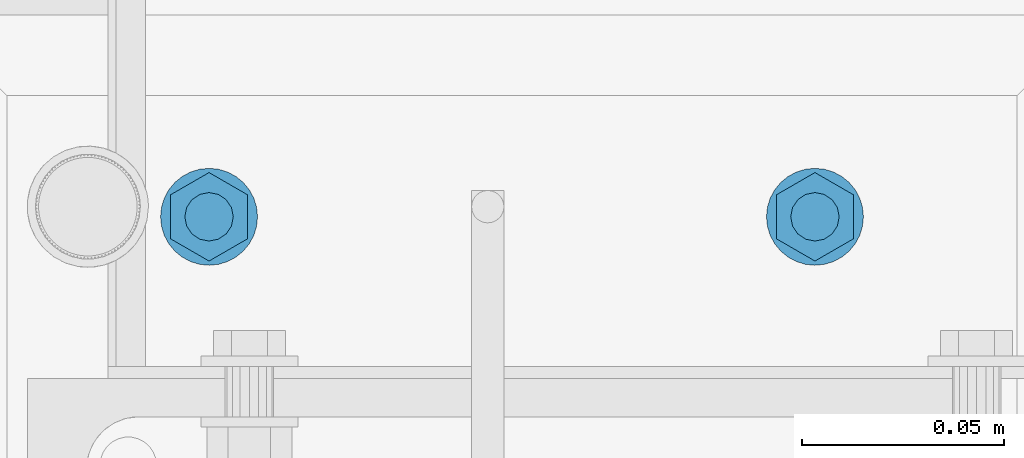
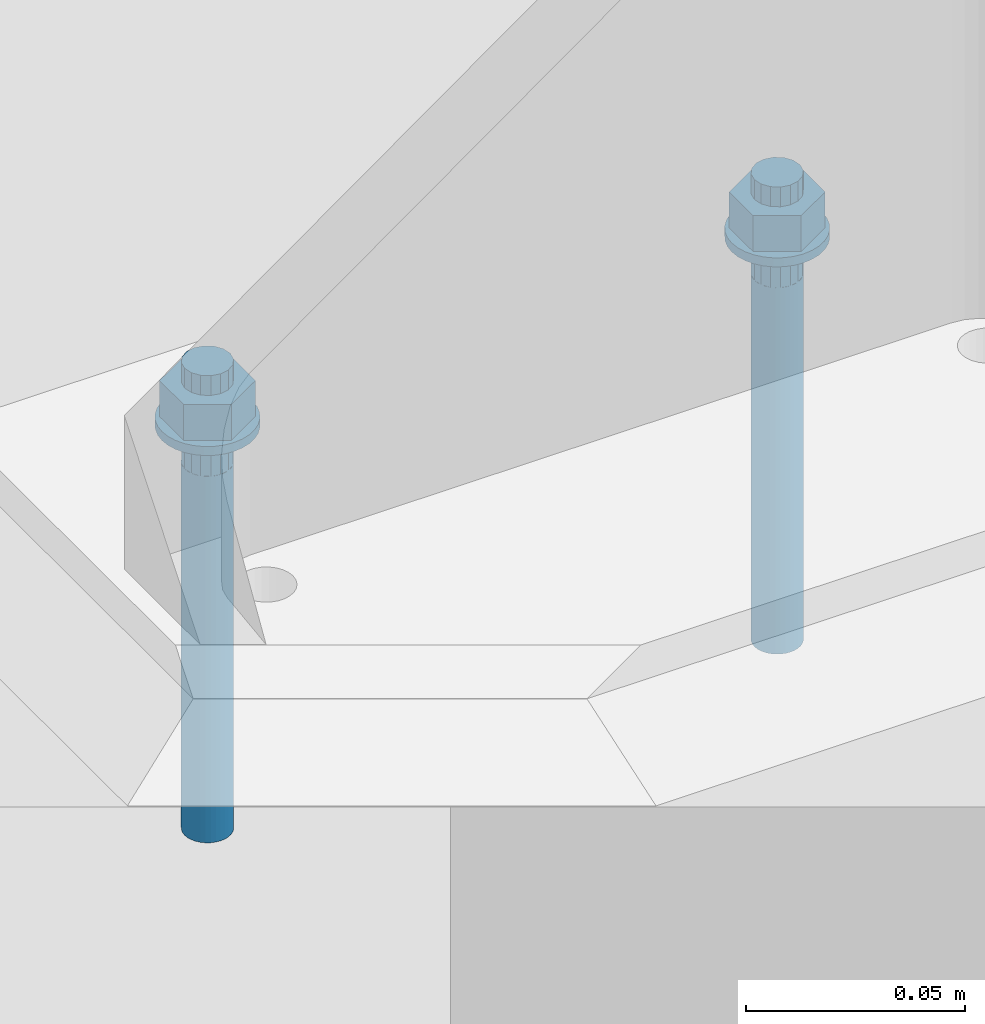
# One storey, part 30 of 145: 1 mechanical fastener.
"""IFC2X3 building model written with IfcOpenShell, lengths in millimetres."""

from ifc_helpers import new_model, entity, si_unit, converted_unit, origin_with_axes, place, context, project, spatial, faceted_brep, element, save


model = new_model("IFC2X3")

# Units and contexts
model_context = context("Model", 3, precision=1e-09, world=origin_with_axes())
ifc_project = project(units=[si_unit("LENGTHUNIT", "METRE", prefix="MILLI"), si_unit("AREAUNIT", "SQUARE_METRE"), si_unit("VOLUMEUNIT", "CUBIC_METRE"), converted_unit("PLANEANGLEUNIT", "DEGREE", entity("IfcPlaneAngleMeasure", 0.01745329), si_unit("PLANEANGLEUNIT", "RADIAN"), dimensions=[0, 0, 0, 0, 0, 0, 0])], contexts=[model_context])

# Site, building, storey
site_placement = place(None, origin_with_axes())
site = spatial("IfcSite", under=ifc_project, at=site_placement, Name="BZ1 Grund- und Mittelschule 85716 Unterschlei?heim", CompositionType="ELEMENT")
building_placement = place(site_placement, origin_with_axes())
building = spatial("IfcBuilding", under=site, at=building_placement, Name="Struktur 1", CompositionType="ELEMENT")
storey_placement = place(building_placement, origin_with_axes())
storey = spatial("IfcBuildingStorey", under=building, at=storey_placement, Name="Default Storey", CompositionType="ELEMENT", Elevation=0.0)

# Mechanical fastener
mechanical_fastener_placement = place(None, origin_with_axes())
element("IfcMechanicalFastener", 1, at=mechanical_fastener_placement, inside=storey, ObjectType="-", NominalDiameter=12.0, NominalLength=130.0, context=model_context, shape_type="Brep", body=[
    faceted_brep([(16701.545399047, -3080.002, -727.5), (16701.545399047, -3080.002, -730.0), (16701.314822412, -3077.660916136, -730.0), (16701.314822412, -3077.660916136, -727.5), (16700.631953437, -3075.409798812, -730.0), (16700.631953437, -3075.409798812, -727.5), (16699.523034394, -3073.335157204, -730.0), (16699.523034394, -3073.335157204, -727.5), (16698.030680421, -3071.516718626, -730.0), (16698.030680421, -3071.516718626, -727.5), (16696.212241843, -3070.024364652, -730.0), (16696.212241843, -3070.024364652, -727.5), (16694.137600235, -3068.91544561, -730.0), (16694.137600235, -3068.91544561, -727.5), (16691.886482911, -3068.232576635, -730.0), (16691.886482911, -3068.232576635, -727.5), (16689.545399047, -3068.002, -730.0), (16689.545399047, -3068.002, -727.5), (16687.204315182, -3068.232576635, -730.0), (16687.204315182, -3068.232576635, -727.5), (16684.953197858, -3068.91544561, -730.0), (16684.953197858, -3068.91544561, -727.5), (16682.87855625, -3070.024364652, -730.0), (16682.87855625, -3070.024364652, -727.5), (16681.060117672, -3071.516718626, -730.0), (16681.060117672, -3071.516718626, -727.5), (16679.567763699, -3073.335157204, -730.0), (16679.567763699, -3073.335157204, -727.5), (16678.458844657, -3075.409798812, -730.0), (16678.458844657, -3075.409798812, -727.5), (16677.775975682, -3077.660916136, -730.0), (16677.775975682, -3077.660916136, -727.5), (16677.545399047, -3080.002, -730.0), (16677.545399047, -3080.002, -727.5), (16677.775975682, -3082.343083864, -730.0), (16677.775975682, -3082.343083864, -727.5), (16678.458844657, -3084.594201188, -730.0), (16678.458844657, -3084.594201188, -727.5), (16679.567763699, -3086.668842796, -730.0), (16679.567763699, -3086.668842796, -727.5), (16681.060117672, -3088.487281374, -730.0), (16681.060117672, -3088.487281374, -727.5), (16682.87855625, -3089.979635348, -730.0), (16682.87855625, -3089.979635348, -727.5), (16684.953197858, -3091.08855439, -730.0), (16684.953197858, -3091.08855439, -727.5), (16687.204315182, -3091.771423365, -730.0), (16687.204315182, -3091.771423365, -727.5), (16689.545399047, -3092.002, -730.0), (16689.545399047, -3092.002, -727.5), (16691.886482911, -3091.771423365, -730.0), (16691.886482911, -3091.771423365, -727.5), (16694.137600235, -3091.08855439, -730.0), (16694.137600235, -3091.08855439, -727.5), (16696.212241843, -3089.979635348, -730.0), (16696.212241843, -3089.979635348, -727.5), (16698.030680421, -3088.487281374, -730.0), (16698.030680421, -3088.487281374, -727.5), (16699.523034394, -3086.668842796, -730.0), (16699.523034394, -3086.668842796, -727.5), (16700.631953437, -3084.594201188, -730.0), (16700.631953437, -3084.594201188, -727.5), (16701.314822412, -3082.343083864, -730.0), (16701.314822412, -3082.343083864, -727.5)], [[[0, 1, 2, 3]], [[3, 2, 4, 5]], [[5, 4, 6, 7]], [[7, 6, 8, 9]], [[9, 8, 10, 11]], [[11, 10, 12, 13]], [[13, 12, 14, 15]], [[15, 14, 16, 17]], [[17, 16, 18, 19]], [[19, 18, 20, 21]], [[21, 20, 22, 23]], [[23, 22, 24, 25]], [[25, 24, 26, 27]], [[27, 26, 28, 29]], [[29, 28, 30, 31]], [[31, 30, 32, 33]], [[33, 32, 34, 35]], [[35, 34, 36, 37]], [[37, 36, 38, 39]], [[39, 38, 40, 41]], [[41, 40, 42, 43]], [[43, 42, 44, 45]], [[45, 44, 46, 47]], [[47, 46, 48, 49]], [[49, 48, 50, 51]], [[51, 50, 52, 53]], [[53, 52, 54, 55]], [[55, 54, 56, 57]], [[57, 56, 58, 59]], [[59, 58, 60, 61]], [[61, 60, 62, 63]], [[63, 62, 1, 0]], [[0, 3, 5, 7, 9, 11, 13, 15, 17, 19, 21, 23, 25, 27, 29, 31, 33, 35, 37, 39, 41, 43, 45, 47, 49, 51, 53, 55, 57, 59, 61, 63]], [[1, 62, 60, 58, 56, 54, 52, 50, 48, 46, 44, 42, 40, 38, 36, 34, 32, 30, 28, 26, 24, 22, 20, 18, 16, 14, 12, 10, 8, 6, 4, 2]]]),
    faceted_brep([(16851.545399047, -3080.002, -727.5), (16851.545399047, -3080.002, -730.0), (16851.314822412, -3077.660916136, -730.0), (16851.314822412, -3077.660916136, -727.5), (16850.631953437, -3075.409798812, -730.0), (16850.631953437, -3075.409798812, -727.5), (16849.523034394, -3073.335157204, -730.0), (16849.523034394, -3073.335157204, -727.5), (16848.030680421, -3071.516718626, -730.0), (16848.030680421, -3071.516718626, -727.5), (16846.212241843, -3070.024364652, -730.0), (16846.212241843, -3070.024364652, -727.5), (16844.137600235, -3068.91544561, -730.0), (16844.137600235, -3068.91544561, -727.5), (16841.886482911, -3068.232576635, -730.0), (16841.886482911, -3068.232576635, -727.5), (16839.545399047, -3068.002, -730.0), (16839.545399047, -3068.002, -727.5), (16837.204315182, -3068.232576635, -730.0), (16837.204315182, -3068.232576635, -727.5), (16834.953197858, -3068.91544561, -730.0), (16834.953197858, -3068.91544561, -727.5), (16832.87855625, -3070.024364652, -730.0), (16832.87855625, -3070.024364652, -727.5), (16831.060117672, -3071.516718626, -730.0), (16831.060117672, -3071.516718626, -727.5), (16829.567763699, -3073.335157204, -730.0), (16829.567763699, -3073.335157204, -727.5), (16828.458844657, -3075.409798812, -730.0), (16828.458844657, -3075.409798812, -727.5), (16827.775975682, -3077.660916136, -730.0), (16827.775975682, -3077.660916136, -727.5), (16827.545399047, -3080.002, -730.0), (16827.545399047, -3080.002, -727.5), (16827.775975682, -3082.343083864, -730.0), (16827.775975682, -3082.343083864, -727.5), (16828.458844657, -3084.594201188, -730.0), (16828.458844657, -3084.594201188, -727.5), (16829.567763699, -3086.668842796, -730.0), (16829.567763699, -3086.668842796, -727.5), (16831.060117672, -3088.487281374, -730.0), (16831.060117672, -3088.487281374, -727.5), (16832.87855625, -3089.979635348, -730.0), (16832.87855625, -3089.979635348, -727.5), (16834.953197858, -3091.08855439, -730.0), (16834.953197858, -3091.08855439, -727.5), (16837.204315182, -3091.771423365, -730.0), (16837.204315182, -3091.771423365, -727.5), (16839.545399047, -3092.002, -730.0), (16839.545399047, -3092.002, -727.5), (16841.886482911, -3091.771423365, -730.0), (16841.886482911, -3091.771423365, -727.5), (16844.137600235, -3091.08855439, -730.0), (16844.137600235, -3091.08855439, -727.5), (16846.212241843, -3089.979635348, -730.0), (16846.212241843, -3089.979635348, -727.5), (16848.030680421, -3088.487281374, -730.0), (16848.030680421, -3088.487281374, -727.5), (16849.523034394, -3086.668842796, -730.0), (16849.523034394, -3086.668842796, -727.5), (16850.631953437, -3084.594201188, -730.0), (16850.631953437, -3084.594201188, -727.5), (16851.314822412, -3082.343083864, -730.0), (16851.314822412, -3082.343083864, -727.5)], [[[0, 1, 2, 3]], [[3, 2, 4, 5]], [[5, 4, 6, 7]], [[7, 6, 8, 9]], [[9, 8, 10, 11]], [[11, 10, 12, 13]], [[13, 12, 14, 15]], [[15, 14, 16, 17]], [[17, 16, 18, 19]], [[19, 18, 20, 21]], [[21, 20, 22, 23]], [[23, 22, 24, 25]], [[25, 24, 26, 27]], [[27, 26, 28, 29]], [[29, 28, 30, 31]], [[31, 30, 32, 33]], [[33, 32, 34, 35]], [[35, 34, 36, 37]], [[37, 36, 38, 39]], [[39, 38, 40, 41]], [[41, 40, 42, 43]], [[43, 42, 44, 45]], [[45, 44, 46, 47]], [[47, 46, 48, 49]], [[49, 48, 50, 51]], [[51, 50, 52, 53]], [[53, 52, 54, 55]], [[55, 54, 56, 57]], [[57, 56, 58, 59]], [[59, 58, 60, 61]], [[61, 60, 62, 63]], [[63, 62, 1, 0]], [[0, 3, 5, 7, 9, 11, 13, 15, 17, 19, 21, 23, 25, 27, 29, 31, 33, 35, 37, 39, 41, 43, 45, 47, 49, 51, 53, 55, 57, 59, 61, 63]], [[1, 62, 60, 58, 56, 54, 52, 50, 48, 46, 44, 42, 40, 38, 36, 34, 32, 30, 28, 26, 24, 22, 20, 18, 16, 14, 12, 10, 8, 6, 4, 2]]]),
    faceted_brep([(16680.062420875, -3074.527, -727.5), (16680.062420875, -3074.527, -717.5), (16689.545399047, -3069.052, -717.5), (16689.545399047, -3069.052, -727.5), (16699.028377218, -3074.527, -717.5), (16699.028377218, -3074.527, -727.5), (16699.028377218, -3085.477, -717.5), (16699.028377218, -3085.477, -727.5), (16689.545399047, -3090.952, -717.5), (16689.545399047, -3090.952, -727.5), (16680.062420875, -3085.477, -717.5), (16680.062420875, -3085.477, -727.5)], [[[0, 1, 2, 3]], [[3, 2, 4, 5]], [[5, 4, 6, 7]], [[7, 6, 8, 9]], [[9, 8, 10, 11]], [[11, 10, 1, 0]], [[4, 2, 1, 10, 8, 6]], [[0, 3, 5, 7, 9, 11]]]),
    faceted_brep([(16830.062420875, -3074.527, -727.5), (16830.062420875, -3074.527, -717.5), (16839.545399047, -3069.052, -717.5), (16839.545399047, -3069.052, -727.5), (16849.028377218, -3074.527, -717.5), (16849.028377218, -3074.527, -727.5), (16849.028377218, -3085.477, -717.5), (16849.028377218, -3085.477, -727.5), (16839.545399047, -3090.952, -717.5), (16839.545399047, -3090.952, -727.5), (16830.062420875, -3085.477, -717.5), (16830.062420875, -3085.477, -727.5)], [[[0, 1, 2, 3]], [[3, 2, 4, 5]], [[5, 4, 6, 7]], [[7, 6, 8, 9]], [[9, 8, 10, 11]], [[11, 10, 1, 0]], [[4, 2, 1, 10, 8, 6]], [[0, 3, 5, 7, 9, 11]]]),
    faceted_brep([(16695.545399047, -3080.002, -712.0), (16695.545399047, -3080.002, -717.5), (16695.088676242, -3077.705899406, -717.5), (16695.088676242, -3077.705899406, -712.0), (16693.788039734, -3075.759359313, -717.5), (16693.788039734, -3075.759359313, -712.0), (16691.841499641, -3074.458722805, -717.5), (16691.841499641, -3074.458722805, -712.0), (16689.545399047, -3074.002, -717.5), (16689.545399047, -3074.002, -712.0), (16687.249298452, -3074.458722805, -717.5), (16687.249298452, -3074.458722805, -712.0), (16685.30275836, -3075.759359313, -717.5), (16685.30275836, -3075.759359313, -712.0), (16684.002121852, -3077.705899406, -717.5), (16684.002121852, -3077.705899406, -712.0), (16683.545399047, -3080.002, -717.5), (16683.545399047, -3080.002, -712.0), (16684.002121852, -3082.298100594, -717.5), (16684.002121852, -3082.298100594, -712.0), (16685.30275836, -3084.244640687, -717.5), (16685.30275836, -3084.244640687, -712.0), (16687.249298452, -3085.545277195, -717.5), (16687.249298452, -3085.545277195, -712.0), (16689.545399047, -3086.002, -717.5), (16689.545399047, -3086.002, -712.0), (16691.841499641, -3085.545277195, -717.5), (16691.841499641, -3085.545277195, -712.0), (16693.788039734, -3084.244640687, -717.5), (16693.788039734, -3084.244640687, -712.0), (16695.088676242, -3082.298100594, -717.5), (16695.088676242, -3082.298100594, -712.0)], [[[0, 1, 2, 3]], [[3, 2, 4, 5]], [[5, 4, 6, 7]], [[7, 6, 8, 9]], [[9, 8, 10, 11]], [[11, 10, 12, 13]], [[13, 12, 14, 15]], [[15, 14, 16, 17]], [[17, 16, 18, 19]], [[19, 18, 20, 21]], [[21, 20, 22, 23]], [[23, 22, 24, 25]], [[25, 24, 26, 27]], [[27, 26, 28, 29]], [[29, 28, 30, 31]], [[31, 30, 1, 0]], [[0, 3, 5, 7, 9, 11, 13, 15, 17, 19, 21, 23, 25, 27, 29, 31]], [[1, 30, 28, 26, 24, 22, 20, 18, 16, 14, 12, 10, 8, 6, 4, 2]]]),
    faceted_brep([(16845.545399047, -3080.002, -712.0), (16845.545399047, -3080.002, -717.5), (16845.088676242, -3077.705899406, -717.5), (16845.088676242, -3077.705899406, -712.0), (16843.788039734, -3075.759359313, -717.5), (16843.788039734, -3075.759359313, -712.0), (16841.841499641, -3074.458722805, -717.5), (16841.841499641, -3074.458722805, -712.0), (16839.545399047, -3074.002, -717.5), (16839.545399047, -3074.002, -712.0), (16837.249298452, -3074.458722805, -717.5), (16837.249298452, -3074.458722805, -712.0), (16835.30275836, -3075.759359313, -717.5), (16835.30275836, -3075.759359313, -712.0), (16834.002121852, -3077.705899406, -717.5), (16834.002121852, -3077.705899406, -712.0), (16833.545399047, -3080.002, -717.5), (16833.545399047, -3080.002, -712.0), (16834.002121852, -3082.298100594, -717.5), (16834.002121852, -3082.298100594, -712.0), (16835.30275836, -3084.244640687, -717.5), (16835.30275836, -3084.244640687, -712.0), (16837.249298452, -3085.545277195, -717.5), (16837.249298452, -3085.545277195, -712.0), (16839.545399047, -3086.002, -717.5), (16839.545399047, -3086.002, -712.0), (16841.841499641, -3085.545277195, -717.5), (16841.841499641, -3085.545277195, -712.0), (16843.788039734, -3084.244640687, -717.5), (16843.788039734, -3084.244640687, -712.0), (16845.088676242, -3082.298100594, -717.5), (16845.088676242, -3082.298100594, -712.0)], [[[0, 1, 2, 3]], [[3, 2, 4, 5]], [[5, 4, 6, 7]], [[7, 6, 8, 9]], [[9, 8, 10, 11]], [[11, 10, 12, 13]], [[13, 12, 14, 15]], [[15, 14, 16, 17]], [[17, 16, 18, 19]], [[19, 18, 20, 21]], [[21, 20, 22, 23]], [[23, 22, 24, 25]], [[25, 24, 26, 27]], [[27, 26, 28, 29]], [[29, 28, 30, 31]], [[31, 30, 1, 0]], [[0, 3, 5, 7, 9, 11, 13, 15, 17, 19, 21, 23, 25, 27, 29, 31]], [[1, 30, 28, 26, 24, 22, 20, 18, 16, 14, 12, 10, 8, 6, 4, 2]]]),
    faceted_brep([(16695.545399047, -3080.002, -730.0), (16695.545399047, -3080.002, -740.0), (16695.088676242, -3077.705899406, -740.0), (16695.088676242, -3077.705899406, -730.0), (16693.788039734, -3075.759359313, -740.0), (16693.788039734, -3075.759359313, -730.0), (16691.841499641, -3074.458722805, -740.0), (16691.841499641, -3074.458722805, -730.0), (16689.545399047, -3074.002, -740.0), (16689.545399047, -3074.002, -730.0), (16687.249298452, -3074.458722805, -740.0), (16687.249298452, -3074.458722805, -730.0), (16685.30275836, -3075.759359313, -740.0), (16685.30275836, -3075.759359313, -730.0), (16684.002121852, -3077.705899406, -740.0), (16684.002121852, -3077.705899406, -730.0), (16683.545399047, -3080.002, -740.0), (16683.545399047, -3080.002, -730.0), (16684.002121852, -3082.298100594, -740.0), (16684.002121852, -3082.298100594, -730.0), (16685.30275836, -3084.244640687, -740.0), (16685.30275836, -3084.244640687, -730.0), (16687.249298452, -3085.545277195, -740.0), (16687.249298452, -3085.545277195, -730.0), (16689.545399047, -3086.002, -740.0), (16689.545399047, -3086.002, -730.0), (16691.841499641, -3085.545277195, -740.0), (16691.841499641, -3085.545277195, -730.0), (16693.788039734, -3084.244640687, -740.0), (16693.788039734, -3084.244640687, -730.0), (16695.088676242, -3082.298100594, -740.0), (16695.088676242, -3082.298100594, -730.0)], [[[0, 1, 2, 3]], [[3, 2, 4, 5]], [[5, 4, 6, 7]], [[7, 6, 8, 9]], [[9, 8, 10, 11]], [[11, 10, 12, 13]], [[13, 12, 14, 15]], [[15, 14, 16, 17]], [[17, 16, 18, 19]], [[19, 18, 20, 21]], [[21, 20, 22, 23]], [[23, 22, 24, 25]], [[25, 24, 26, 27]], [[27, 26, 28, 29]], [[29, 28, 30, 31]], [[31, 30, 1, 0]], [[0, 3, 5, 7, 9, 11, 13, 15, 17, 19, 21, 23, 25, 27, 29, 31]], [[1, 30, 28, 26, 24, 22, 20, 18, 16, 14, 12, 10, 8, 6, 4, 2]]]),
    faceted_brep([(16845.545399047, -3080.002, -730.0), (16845.545399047, -3080.002, -740.0), (16845.088676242, -3077.705899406, -740.0), (16845.088676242, -3077.705899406, -730.0), (16843.788039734, -3075.759359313, -740.0), (16843.788039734, -3075.759359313, -730.0), (16841.841499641, -3074.458722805, -740.0), (16841.841499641, -3074.458722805, -730.0), (16839.545399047, -3074.002, -740.0), (16839.545399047, -3074.002, -730.0), (16837.249298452, -3074.458722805, -740.0), (16837.249298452, -3074.458722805, -730.0), (16835.30275836, -3075.759359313, -740.0), (16835.30275836, -3075.759359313, -730.0), (16834.002121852, -3077.705899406, -740.0), (16834.002121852, -3077.705899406, -730.0), (16833.545399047, -3080.002, -740.0), (16833.545399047, -3080.002, -730.0), (16834.002121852, -3082.298100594, -740.0), (16834.002121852, -3082.298100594, -730.0), (16835.30275836, -3084.244640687, -740.0), (16835.30275836, -3084.244640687, -730.0), (16837.249298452, -3085.545277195, -740.0), (16837.249298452, -3085.545277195, -730.0), (16839.545399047, -3086.002, -740.0), (16839.545399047, -3086.002, -730.0), (16841.841499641, -3085.545277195, -740.0), (16841.841499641, -3085.545277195, -730.0), (16843.788039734, -3084.244640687, -740.0), (16843.788039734, -3084.244640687, -730.0), (16845.088676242, -3082.298100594, -740.0), (16845.088676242, -3082.298100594, -730.0)], [[[0, 1, 2, 3]], [[3, 2, 4, 5]], [[5, 4, 6, 7]], [[7, 6, 8, 9]], [[9, 8, 10, 11]], [[11, 10, 12, 13]], [[13, 12, 14, 15]], [[15, 14, 16, 17]], [[17, 16, 18, 19]], [[19, 18, 20, 21]], [[21, 20, 22, 23]], [[23, 22, 24, 25]], [[25, 24, 26, 27]], [[27, 26, 28, 29]], [[29, 28, 30, 31]], [[31, 30, 1, 0]], [[0, 3, 5, 7, 9, 11, 13, 15, 17, 19, 21, 23, 25, 27, 29, 31]], [[1, 30, 28, 26, 24, 22, 20, 18, 16, 14, 12, 10, 8, 6, 4, 2]]]),
    faceted_brep([(16695.545399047, -3080.002, -740.0), (16695.545399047, -3080.002, -842.0), (16695.430110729, -3078.831458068, -842.0), (16695.430110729, -3078.831458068, -740.0), (16695.088676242, -3077.705899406, -842.0), (16695.088676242, -3077.705899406, -740.0), (16694.53421672, -3076.668578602, -842.0), (16694.53421672, -3076.668578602, -740.0), (16693.788039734, -3075.759359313, -842.0), (16693.788039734, -3075.759359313, -740.0), (16692.878820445, -3075.013182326, -842.0), (16692.878820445, -3075.013182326, -740.0), (16691.841499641, -3074.458722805, -842.0), (16691.841499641, -3074.458722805, -740.0), (16690.715940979, -3074.117288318, -842.0), (16690.715940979, -3074.117288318, -740.0), (16689.545399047, -3074.002, -842.0), (16689.545399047, -3074.002, -740.0), (16688.374857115, -3074.117288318, -842.0), (16688.374857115, -3074.117288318, -740.0), (16687.249298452, -3074.458722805, -842.0), (16687.249298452, -3074.458722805, -740.0), (16686.211977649, -3075.013182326, -842.0), (16686.211977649, -3075.013182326, -740.0), (16685.30275836, -3075.759359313, -842.0), (16685.30275836, -3075.759359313, -740.0), (16684.556581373, -3076.668578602, -842.0), (16684.556581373, -3076.668578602, -740.0), (16684.002121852, -3077.705899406, -842.0), (16684.002121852, -3077.705899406, -740.0), (16683.660687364, -3078.831458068, -842.0), (16683.660687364, -3078.831458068, -740.0), (16683.545399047, -3080.002, -842.0), (16683.545399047, -3080.002, -740.0), (16683.660687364, -3081.172541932, -842.0), (16683.660687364, -3081.172541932, -740.0), (16684.002121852, -3082.298100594, -842.0), (16684.002121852, -3082.298100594, -740.0), (16684.556581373, -3083.335421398, -842.0), (16684.556581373, -3083.335421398, -740.0), (16685.30275836, -3084.244640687, -842.0), (16685.30275836, -3084.244640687, -740.0), (16686.211977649, -3084.990817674, -842.0), (16686.211977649, -3084.990817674, -740.0), (16687.249298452, -3085.545277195, -842.0), (16687.249298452, -3085.545277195, -740.0), (16688.374857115, -3085.886711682, -842.0), (16688.374857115, -3085.886711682, -740.0), (16689.545399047, -3086.002, -842.0), (16689.545399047, -3086.002, -740.0), (16690.715940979, -3085.886711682, -842.0), (16690.715940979, -3085.886711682, -740.0), (16691.841499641, -3085.545277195, -842.0), (16691.841499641, -3085.545277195, -740.0), (16692.878820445, -3084.990817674, -842.0), (16692.878820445, -3084.990817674, -740.0), (16693.788039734, -3084.244640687, -842.0), (16693.788039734, -3084.244640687, -740.0), (16694.53421672, -3083.335421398, -842.0), (16694.53421672, -3083.335421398, -740.0), (16695.088676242, -3082.298100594, -842.0), (16695.088676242, -3082.298100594, -740.0), (16695.430110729, -3081.172541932, -842.0), (16695.430110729, -3081.172541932, -740.0)], [[[0, 1, 2, 3]], [[3, 2, 4, 5]], [[5, 4, 6, 7]], [[7, 6, 8, 9]], [[9, 8, 10, 11]], [[11, 10, 12, 13]], [[13, 12, 14, 15]], [[15, 14, 16, 17]], [[17, 16, 18, 19]], [[19, 18, 20, 21]], [[21, 20, 22, 23]], [[23, 22, 24, 25]], [[25, 24, 26, 27]], [[27, 26, 28, 29]], [[29, 28, 30, 31]], [[31, 30, 32, 33]], [[33, 32, 34, 35]], [[35, 34, 36, 37]], [[37, 36, 38, 39]], [[39, 38, 40, 41]], [[41, 40, 42, 43]], [[43, 42, 44, 45]], [[45, 44, 46, 47]], [[47, 46, 48, 49]], [[49, 48, 50, 51]], [[51, 50, 52, 53]], [[53, 52, 54, 55]], [[55, 54, 56, 57]], [[57, 56, 58, 59]], [[59, 58, 60, 61]], [[61, 60, 62, 63]], [[63, 62, 1, 0]], [[0, 3, 5, 7, 9, 11, 13, 15, 17, 19, 21, 23, 25, 27, 29, 31, 33, 35, 37, 39, 41, 43, 45, 47, 49, 51, 53, 55, 57, 59, 61, 63]], [[1, 62, 60, 58, 56, 54, 52, 50, 48, 46, 44, 42, 40, 38, 36, 34, 32, 30, 28, 26, 24, 22, 20, 18, 16, 14, 12, 10, 8, 6, 4, 2]]]),
    faceted_brep([(16845.545399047, -3080.002, -740.0), (16845.545399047, -3080.002, -842.0), (16845.430110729, -3078.831458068, -842.0), (16845.430110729, -3078.831458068, -740.0), (16845.088676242, -3077.705899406, -842.0), (16845.088676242, -3077.705899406, -740.0), (16844.53421672, -3076.668578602, -842.0), (16844.53421672, -3076.668578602, -740.0), (16843.788039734, -3075.759359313, -842.0), (16843.788039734, -3075.759359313, -740.0), (16842.878820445, -3075.013182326, -842.0), (16842.878820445, -3075.013182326, -740.0), (16841.841499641, -3074.458722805, -842.0), (16841.841499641, -3074.458722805, -740.0), (16840.715940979, -3074.117288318, -842.0), (16840.715940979, -3074.117288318, -740.0), (16839.545399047, -3074.002, -842.0), (16839.545399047, -3074.002, -740.0), (16838.374857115, -3074.117288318, -842.0), (16838.374857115, -3074.117288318, -740.0), (16837.249298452, -3074.458722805, -842.0), (16837.249298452, -3074.458722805, -740.0), (16836.211977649, -3075.013182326, -842.0), (16836.211977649, -3075.013182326, -740.0), (16835.30275836, -3075.759359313, -842.0), (16835.30275836, -3075.759359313, -740.0), (16834.556581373, -3076.668578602, -842.0), (16834.556581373, -3076.668578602, -740.0), (16834.002121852, -3077.705899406, -842.0), (16834.002121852, -3077.705899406, -740.0), (16833.660687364, -3078.831458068, -842.0), (16833.660687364, -3078.831458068, -740.0), (16833.545399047, -3080.002, -842.0), (16833.545399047, -3080.002, -740.0), (16833.660687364, -3081.172541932, -842.0), (16833.660687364, -3081.172541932, -740.0), (16834.002121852, -3082.298100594, -842.0), (16834.002121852, -3082.298100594, -740.0), (16834.556581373, -3083.335421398, -842.0), (16834.556581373, -3083.335421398, -740.0), (16835.30275836, -3084.244640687, -842.0), (16835.30275836, -3084.244640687, -740.0), (16836.211977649, -3084.990817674, -842.0), (16836.211977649, -3084.990817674, -740.0), (16837.249298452, -3085.545277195, -842.0), (16837.249298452, -3085.545277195, -740.0), (16838.374857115, -3085.886711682, -842.0), (16838.374857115, -3085.886711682, -740.0), (16839.545399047, -3086.002, -842.0), (16839.545399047, -3086.002, -740.0), (16840.715940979, -3085.886711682, -842.0), (16840.715940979, -3085.886711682, -740.0), (16841.841499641, -3085.545277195, -842.0), (16841.841499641, -3085.545277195, -740.0), (16842.878820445, -3084.990817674, -842.0), (16842.878820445, -3084.990817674, -740.0), (16843.788039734, -3084.244640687, -842.0), (16843.788039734, -3084.244640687, -740.0), (16844.53421672, -3083.335421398, -842.0), (16844.53421672, -3083.335421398, -740.0), (16845.088676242, -3082.298100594, -842.0), (16845.088676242, -3082.298100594, -740.0), (16845.430110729, -3081.172541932, -842.0), (16845.430110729, -3081.172541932, -740.0)], [[[0, 1, 2, 3]], [[3, 2, 4, 5]], [[5, 4, 6, 7]], [[7, 6, 8, 9]], [[9, 8, 10, 11]], [[11, 10, 12, 13]], [[13, 12, 14, 15]], [[15, 14, 16, 17]], [[17, 16, 18, 19]], [[19, 18, 20, 21]], [[21, 20, 22, 23]], [[23, 22, 24, 25]], [[25, 24, 26, 27]], [[27, 26, 28, 29]], [[29, 28, 30, 31]], [[31, 30, 32, 33]], [[33, 32, 34, 35]], [[35, 34, 36, 37]], [[37, 36, 38, 39]], [[39, 38, 40, 41]], [[41, 40, 42, 43]], [[43, 42, 44, 45]], [[45, 44, 46, 47]], [[47, 46, 48, 49]], [[49, 48, 50, 51]], [[51, 50, 52, 53]], [[53, 52, 54, 55]], [[55, 54, 56, 57]], [[57, 56, 58, 59]], [[59, 58, 60, 61]], [[61, 60, 62, 63]], [[63, 62, 1, 0]], [[0, 3, 5, 7, 9, 11, 13, 15, 17, 19, 21, 23, 25, 27, 29, 31, 33, 35, 37, 39, 41, 43, 45, 47, 49, 51, 53, 55, 57, 59, 61, 63]], [[1, 62, 60, 58, 56, 54, 52, 50, 48, 46, 44, 42, 40, 38, 36, 34, 32, 30, 28, 26, 24, 22, 20, 18, 16, 14, 12, 10, 8, 6, 4, 2]]]),
])

save(model, "model.ifc")
